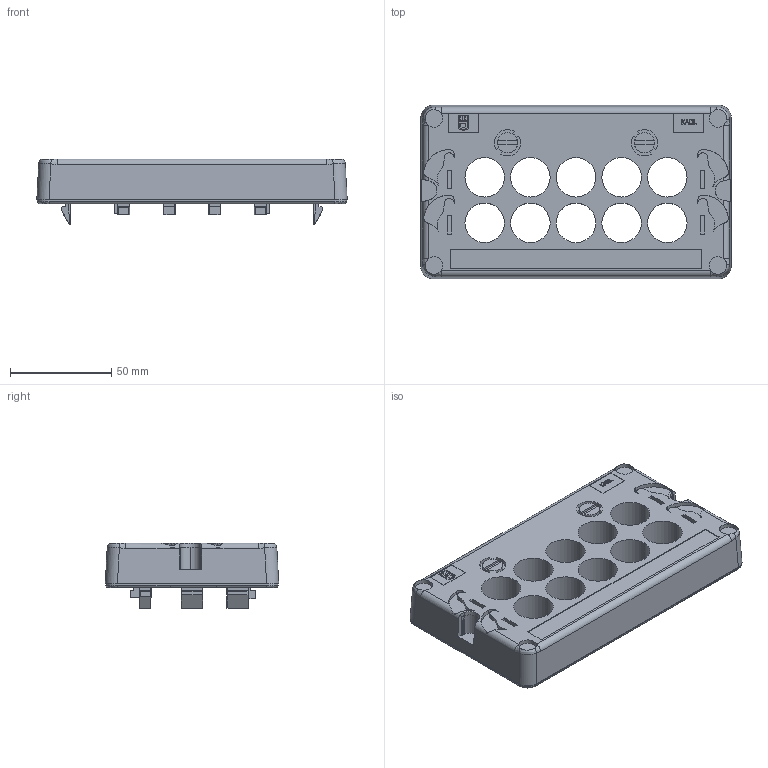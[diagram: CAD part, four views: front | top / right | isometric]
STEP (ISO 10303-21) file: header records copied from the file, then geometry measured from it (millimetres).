
FILE_DESCRIPTION (( 'STEP AP214' ), '1' );
FILE_NAME ('KADL-10K.STEP', '2019-03-11T16:14:56', ( '' ), ( '' ), 'SwSTEP 2.0', 'SolidWorks 2018', '' );
FILE_SCHEMA (( 'AUTOMOTIVE_DESIGN' ));
Length unit declared in the file: millimetre
Products named in the file (1): KADL-10K
Bounding box: 153 x 85.5 x 32.5 mm (x, y, z)
Volume: 196947.4 mm3; surface area: 47297.1 mm2
Topology: 1 solids, 7 shells, 557 faces, 1478 edges, 968 vertices
Faces by surface type: plane 372, cylinder 142, bspline 43
Entity records: 18941 total; most frequent: CARTESIAN_POINT 5214, ORIENTED_EDGE 2956, DIRECTION 2660, EDGE_CURVE 1478, VECTOR 1060, LINE 1060, VERTEX_POINT 968, AXIS2_PLACEMENT_3D 800
